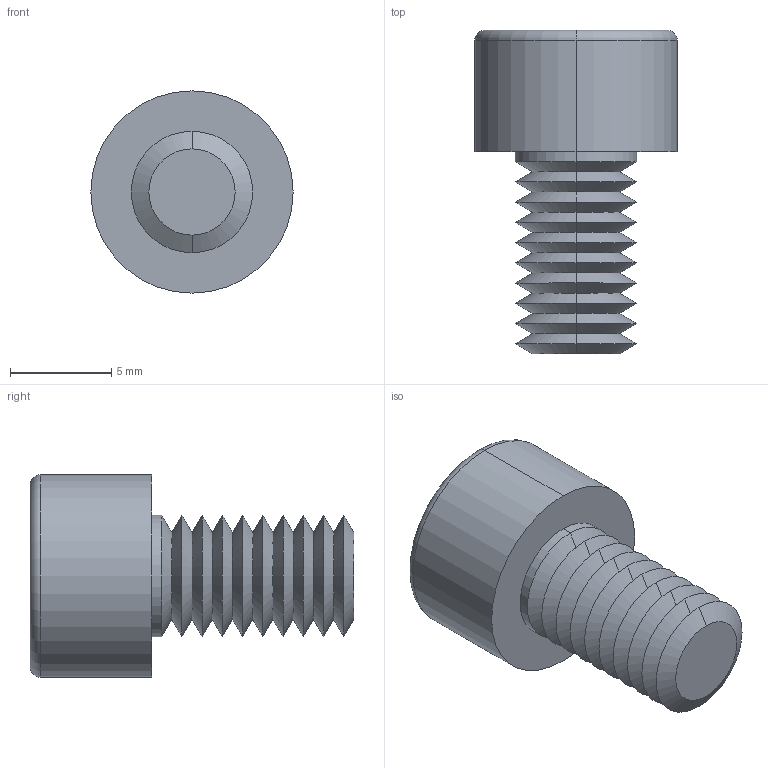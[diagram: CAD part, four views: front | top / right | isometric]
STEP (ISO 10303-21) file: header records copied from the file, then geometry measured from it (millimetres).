
FILE_DESCRIPTION (( 'STEP AP203' ), '1' );
FILE_NAME ('91N.060.0100.step', '2025-05-20T08:52:25', ( '' ), ( '' ), 'SwSTEP 2.0', 'SolidWorks 2019', '' );
FILE_SCHEMA (( 'CONFIG_CONTROL_DESIGN' ));
Length unit declared in the file: millimetre
Products named in the file (1): 91N.060.0100
Bounding box: 10 x 16 x 10 mm (x, y, z)
Volume: 564.4 mm3; surface area: 729.2 mm2
Topology: 1 solids, 1 shells, 68 faces, 135 edges, 69 vertices
Faces by surface type: cone 47, plane 15, cylinder 4, torus 2
Entity records: 1778 total; most frequent: DIRECTION 327, CARTESIAN_POINT 298, ORIENTED_EDGE 266, EDGE_CURVE 133, AXIS2_PLACEMENT_3D 132, EDGE_LOOP 70, VERTEX_POINT 69, FACE_OUTER_BOUND 68
